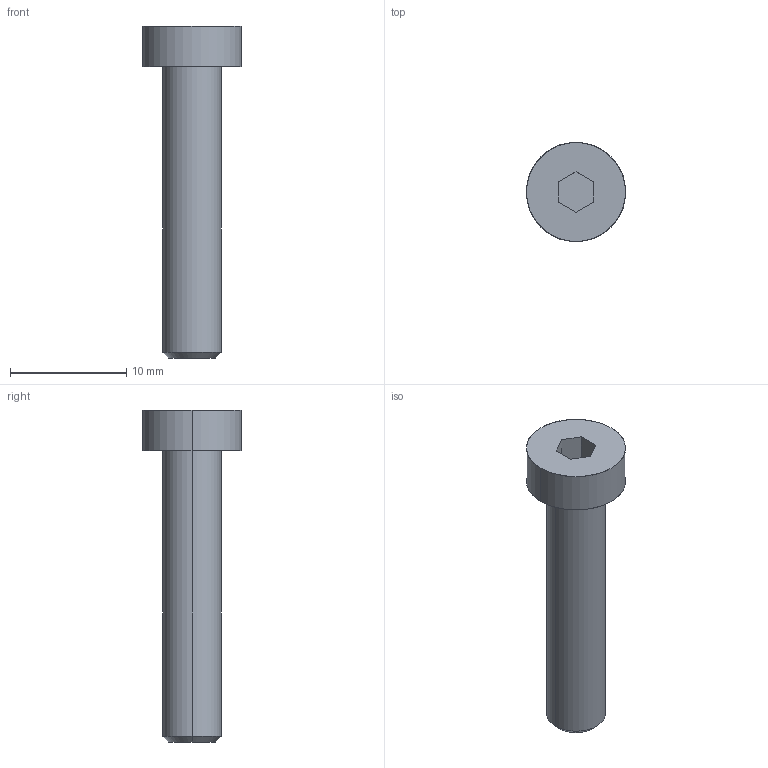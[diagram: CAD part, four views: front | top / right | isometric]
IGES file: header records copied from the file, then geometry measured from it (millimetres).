
Global section: file name: E:\UnigraphicsGraphicData\MISUMI_PRESS-PARTS\IGES\3d_cbs5-25_00452_r00.igs; native system: NX V5.0; preprocessor: UGS NX IGES V5.0; author: MISUMI; date: 20110105.160200; units: millimetre
Bounding box: 8.5 x 8.5 x 28.5 mm (x, y, z)
Surface area: 623.1 mm2 (no closed solid volume)
Topology: 0 solids, 0 shells, 16 faces, 92 edges, 92 vertices
Faces by surface type: bspline 16
